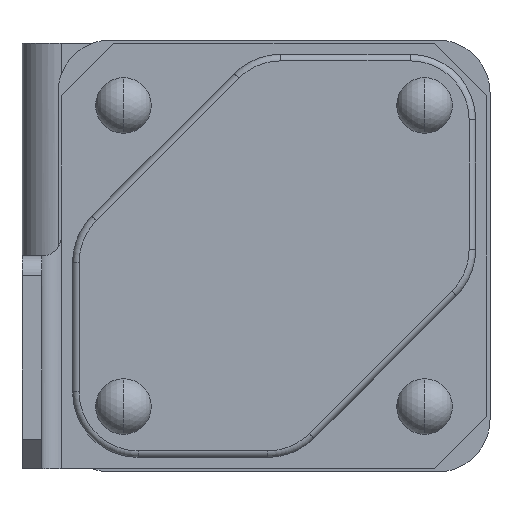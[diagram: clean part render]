
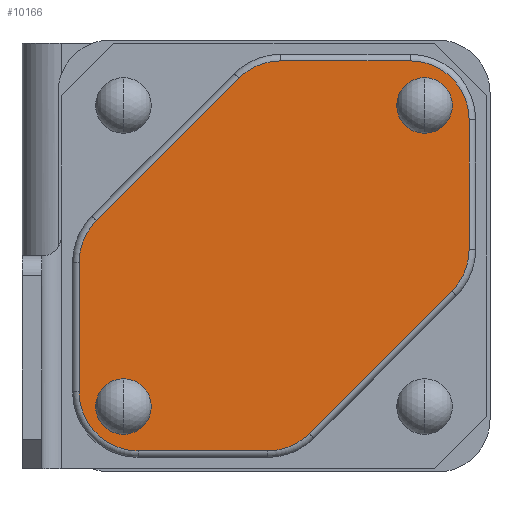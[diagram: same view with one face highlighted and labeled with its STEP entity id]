
A CAD part, front view. The second image highlights one B-rep face of the part: STEP entity #10166.
In plain terms, the highlighted planar face has unit normal (0, -1, 0).
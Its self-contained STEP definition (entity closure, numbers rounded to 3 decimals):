
#315 = CIRCLE ( 'NONE', #3400, 4.25 ) ;
#407 = DIRECTION ( 'NONE',  ( 1., 0., 0. ) ) ;
#448 = CARTESIAN_POINT ( 'NONE',  ( 23., -35.5, 27.25 ) ) ;
#480 = AXIS2_PLACEMENT_3D ( 'NONE', #14851, #12390, #4695 ) ;
#483 = DIRECTION ( 'NONE',  ( 0., 0., -1. ) ) ;
#533 = DIRECTION ( 'NONE',  ( -0.707, 0., -0.707 ) ) ;
#767 = CARTESIAN_POINT ( 'NONE',  ( 20.808, -35.5, 1.009 ) ) ;
#773 = CARTESIAN_POINT ( 'NONE',  ( 1.009, -35.5, 29.808 ) ) ;
#810 = DIRECTION ( 'NONE',  ( 0., -1., 0. ) ) ;
#823 = DIRECTION ( 'NONE',  ( 0.707, 0., -0.707 ) ) ;
#898 = DIRECTION ( 'NONE',  ( 0., 1., 0. ) ) ;
#904 = FACE_BOUND ( 'NONE', #13531, .T. ) ;
#957 = EDGE_CURVE ( 'NONE', #13229, #3943, #8693, .T. ) ;
#1001 = CIRCLE ( 'NONE', #3148, 9. ) ;
#1104 = CARTESIAN_POINT ( 'NONE',  ( -23., -35.5, -18.75 ) ) ;
#1177 = EDGE_CURVE ( 'NONE', #11392, #12930, #8475, .T. ) ;
#1303 = LINE ( 'NONE', #1787, #2280 ) ;
#1322 = CIRCLE ( 'NONE', #480, 9. ) ;
#1401 = AXIS2_PLACEMENT_3D ( 'NONE', #767, #16153, #823 ) ;
#1407 = ORIENTED_EDGE ( 'NONE', *, *, #957, .T. ) ;
#1455 = CARTESIAN_POINT ( 'NONE',  ( -0.971, -35.5, -29.77 ) ) ;
#1787 = CARTESIAN_POINT ( 'NONE',  ( -29.77, -35.5, -20.77 ) ) ;
#1911 = CIRCLE ( 'NONE', #4523, 9. ) ;
#2199 = EDGE_LOOP ( 'NONE', ( #15185, #13399 ) ) ;
#2280 = VECTOR ( 'NONE', #483, 1000. ) ;
#2576 = VERTEX_POINT ( 'NONE', #14228 ) ;
#2859 = CARTESIAN_POINT ( 'NONE',  ( -0.971, -35.5, -29.77 ) ) ;
#2919 = VECTOR ( 'NONE', #7416, 1000. ) ;
#2920 = EDGE_LOOP ( 'NONE', ( #15342, #1407, #7557, #9671, #8165, #4220, #16069, #4429, #7052, #10631, #8561, #8047 ) ) ;
#3148 = AXIS2_PLACEMENT_3D ( 'NONE', #10977, #3235, #8512 ) ;
#3235 = DIRECTION ( 'NONE',  ( 0., -1., 0. ) ) ;
#3253 = CARTESIAN_POINT ( 'NONE',  ( -23., -35.5, -23. ) ) ;
#3400 = AXIS2_PLACEMENT_3D ( 'NONE', #15783, #10399, #11801 ) ;
#3433 = DIRECTION ( 'NONE',  ( 0.707, 0., -0.707 ) ) ;
#3435 = CIRCLE ( 'NONE', #3643, 9. ) ;
#3643 = AXIS2_PLACEMENT_3D ( 'NONE', #4259, #15741, #4088 ) ;
#3651 = CARTESIAN_POINT ( 'NONE',  ( 20.808, -35.5, 20.808 ) ) ;
#3669 = DIRECTION ( 'NONE',  ( 0., -1., 0. ) ) ;
#3848 = EDGE_CURVE ( 'NONE', #15316, #16023, #315, .T. ) ;
#3943 = VERTEX_POINT ( 'NONE', #10554 ) ;
#3985 = CARTESIAN_POINT ( 'NONE',  ( -23., -35.5, -27.25 ) ) ;
#4066 = LINE ( 'NONE', #6447, #7916 ) ;
#4088 = DIRECTION ( 'NONE',  ( 0.707, 0., -0.707 ) ) ;
#4146 = CARTESIAN_POINT ( 'NONE',  ( 29.808, -35.5, 20.808 ) ) ;
#4220 = ORIENTED_EDGE ( 'NONE', *, *, #4449, .T. ) ;
#4259 = CARTESIAN_POINT ( 'NONE',  ( 1.009, -35.5, 20.808 ) ) ;
#4319 = VECTOR ( 'NONE', #407, 1000. ) ;
#4345 = VERTEX_POINT ( 'NONE', #6630 ) ;
#4429 = ORIENTED_EDGE ( 'NONE', *, *, #13783, .T. ) ;
#4449 = EDGE_CURVE ( 'NONE', #12930, #12187, #3435, .T. ) ;
#4523 = AXIS2_PLACEMENT_3D ( 'NONE', #15902, #810, #11039 ) ;
#4620 = EDGE_CURVE ( 'NONE', #2576, #9823, #1303, .T. ) ;
#4695 = DIRECTION ( 'NONE',  ( 0.707, 0., -0.707 ) ) ;
#4804 = CARTESIAN_POINT ( 'NONE',  ( 29.808, -35.5, 20.808 ) ) ;
#4860 = VECTOR ( 'NONE', #533, 1000. ) ;
#4880 = PLANE ( 'NONE',  #12404 ) ;
#4893 = AXIS2_PLACEMENT_3D ( 'NONE', #15592, #9117, #9057 ) ;
#5010 = CARTESIAN_POINT ( 'NONE',  ( 20.808, -35.5, 29.808 ) ) ;
#5640 = VERTEX_POINT ( 'NONE', #1455 ) ;
#5695 = FACE_OUTER_BOUND ( 'NONE', #2920, .T. ) ;
#6368 = CARTESIAN_POINT ( 'NONE',  ( -29.77, -35.5, -20.77 ) ) ;
#6447 = CARTESIAN_POINT ( 'NONE',  ( 27.172, -35.5, -5.355 ) ) ;
#6499 = DIRECTION ( 'NONE',  ( 0.707, 0., 0.707 ) ) ;
#6557 = DIRECTION ( 'NONE',  ( -1., 0., 0. ) ) ;
#6630 = CARTESIAN_POINT ( 'NONE',  ( -27.134, -35.5, 5.393 ) ) ;
#7025 = EDGE_CURVE ( 'NONE', #13086, #13229, #4066, .T. ) ;
#7052 = ORIENTED_EDGE ( 'NONE', *, *, #4620, .T. ) ;
#7223 = CARTESIAN_POINT ( 'NONE',  ( 23., -35.5, 23. ) ) ;
#7227 = EDGE_CURVE ( 'NONE', #5640, #13086, #1911, .T. ) ;
#7284 = EDGE_CURVE ( 'NONE', #12187, #4345, #13308, .T. ) ;
#7332 = AXIS2_PLACEMENT_3D ( 'NONE', #3253, #13731, #7346 ) ;
#7346 = DIRECTION ( 'NONE',  ( 0., 0., -1. ) ) ;
#7416 = DIRECTION ( 'NONE',  ( 0., 0., 1. ) ) ;
#7439 = EDGE_CURVE ( 'NONE', #16221, #12646, #12174, .T. ) ;
#7458 = EDGE_CURVE ( 'NONE', #16426, #11392, #1322, .T. ) ;
#7557 = ORIENTED_EDGE ( 'NONE', *, *, #12920, .T. ) ;
#7916 = VECTOR ( 'NONE', #6499, 1000. ) ;
#8047 = ORIENTED_EDGE ( 'NONE', *, *, #7227, .T. ) ;
#8165 = ORIENTED_EDGE ( 'NONE', *, *, #1177, .T. ) ;
#8475 = LINE ( 'NONE', #15542, #15873 ) ;
#8512 = DIRECTION ( 'NONE',  ( 0.707, 0., -0.707 ) ) ;
#8561 = ORIENTED_EDGE ( 'NONE', *, *, #9373, .T. ) ;
#8693 = CIRCLE ( 'NONE', #1401, 9. ) ;
#8780 = CARTESIAN_POINT ( 'NONE',  ( -20.77, -35.5, -29.77 ) ) ;
#8865 = CARTESIAN_POINT ( 'NONE',  ( 5.393, -35.5, -27.134 ) ) ;
#9019 = EDGE_CURVE ( 'NONE', #9823, #12547, #1001, .T. ) ;
#9057 = DIRECTION ( 'NONE',  ( 0., 0., -1. ) ) ;
#9117 = DIRECTION ( 'NONE',  ( 0., 1., 0. ) ) ;
#9373 = EDGE_CURVE ( 'NONE', #12547, #5640, #16175, .T. ) ;
#9643 = CARTESIAN_POINT ( 'NONE',  ( -5.355, -35.5, 27.172 ) ) ;
#9644 = ORIENTED_EDGE ( 'NONE', *, *, #3848, .T. ) ;
#9671 = ORIENTED_EDGE ( 'NONE', *, *, #7458, .T. ) ;
#9823 = VERTEX_POINT ( 'NONE', #6368 ) ;
#9859 = DIRECTION ( 'NONE',  ( 0., 0., -1. ) ) ;
#10108 = CIRCLE ( 'NONE', #14073, 9. ) ;
#10166 = ADVANCED_FACE ( 'NONE', ( #904, #14701, #5695 ), #4880, .T. ) ;
#10197 = CARTESIAN_POINT ( 'NONE',  ( -20.77, -35.5, -0.971 ) ) ;
#10399 = DIRECTION ( 'NONE',  ( 0., 1., 0. ) ) ;
#10554 = CARTESIAN_POINT ( 'NONE',  ( 29.808, -35.5, 1.009 ) ) ;
#10631 = ORIENTED_EDGE ( 'NONE', *, *, #9019, .T. ) ;
#10977 = CARTESIAN_POINT ( 'NONE',  ( -20.77, -35.5, -20.77 ) ) ;
#11039 = DIRECTION ( 'NONE',  ( 0.707, 0., -0.707 ) ) ;
#11392 = VERTEX_POINT ( 'NONE', #5010 ) ;
#11530 = EDGE_CURVE ( 'NONE', #12646, #16221, #13421, .T. ) ;
#11801 = DIRECTION ( 'NONE',  ( 0., 0., -1. ) ) ;
#12174 = CIRCLE ( 'NONE', #7332, 4.25 ) ;
#12187 = VERTEX_POINT ( 'NONE', #9643 ) ;
#12342 = CIRCLE ( 'NONE', #15570, 4.25 ) ;
#12389 = EDGE_CURVE ( 'NONE', #16023, #15316, #12342, .T. ) ;
#12390 = DIRECTION ( 'NONE',  ( 0., -1., 0. ) ) ;
#12404 = AXIS2_PLACEMENT_3D ( 'NONE', #3651, #13645, #3433 ) ;
#12547 = VERTEX_POINT ( 'NONE', #8780 ) ;
#12646 = VERTEX_POINT ( 'NONE', #3985 ) ;
#12920 = EDGE_CURVE ( 'NONE', #3943, #16426, #14332, .T. ) ;
#12930 = VERTEX_POINT ( 'NONE', #773 ) ;
#13086 = VERTEX_POINT ( 'NONE', #8865 ) ;
#13229 = VERTEX_POINT ( 'NONE', #14390 ) ;
#13233 = CARTESIAN_POINT ( 'NONE',  ( -27.134, -35.5, 5.393 ) ) ;
#13308 = LINE ( 'NONE', #13233, #4860 ) ;
#13399 = ORIENTED_EDGE ( 'NONE', *, *, #7439, .T. ) ;
#13421 = CIRCLE ( 'NONE', #4893, 4.25 ) ;
#13531 = EDGE_LOOP ( 'NONE', ( #15962, #9644 ) ) ;
#13645 = DIRECTION ( 'NONE',  ( 0., -1., 0. ) ) ;
#13731 = DIRECTION ( 'NONE',  ( 0., 1., 0. ) ) ;
#13783 = EDGE_CURVE ( 'NONE', #4345, #2576, #10108, .T. ) ;
#14073 = AXIS2_PLACEMENT_3D ( 'NONE', #10197, #3669, #14093 ) ;
#14093 = DIRECTION ( 'NONE',  ( 0.707, 0., -0.707 ) ) ;
#14228 = CARTESIAN_POINT ( 'NONE',  ( -29.77, -35.5, -0.971 ) ) ;
#14332 = LINE ( 'NONE', #4804, #2919 ) ;
#14390 = CARTESIAN_POINT ( 'NONE',  ( 27.172, -35.5, -5.355 ) ) ;
#14701 = FACE_BOUND ( 'NONE', #2199, .T. ) ;
#14851 = CARTESIAN_POINT ( 'NONE',  ( 20.808, -35.5, 20.808 ) ) ;
#15185 = ORIENTED_EDGE ( 'NONE', *, *, #11530, .T. ) ;
#15316 = VERTEX_POINT ( 'NONE', #448 ) ;
#15342 = ORIENTED_EDGE ( 'NONE', *, *, #7025, .T. ) ;
#15542 = CARTESIAN_POINT ( 'NONE',  ( 1.009, -35.5, 29.808 ) ) ;
#15570 = AXIS2_PLACEMENT_3D ( 'NONE', #7223, #898, #9859 ) ;
#15592 = CARTESIAN_POINT ( 'NONE',  ( -23., -35.5, -23. ) ) ;
#15741 = DIRECTION ( 'NONE',  ( 0., -1., 0. ) ) ;
#15783 = CARTESIAN_POINT ( 'NONE',  ( 23., -35.5, 23. ) ) ;
#15873 = VECTOR ( 'NONE', #6557, 1000. ) ;
#15902 = CARTESIAN_POINT ( 'NONE',  ( -0.971, -35.5, -20.77 ) ) ;
#15962 = ORIENTED_EDGE ( 'NONE', *, *, #12389, .T. ) ;
#16023 = VERTEX_POINT ( 'NONE', #16168 ) ;
#16069 = ORIENTED_EDGE ( 'NONE', *, *, #7284, .T. ) ;
#16153 = DIRECTION ( 'NONE',  ( 0., -1., 0. ) ) ;
#16168 = CARTESIAN_POINT ( 'NONE',  ( 23., -35.5, 18.75 ) ) ;
#16175 = LINE ( 'NONE', #2859, #4319 ) ;
#16221 = VERTEX_POINT ( 'NONE', #1104 ) ;
#16426 = VERTEX_POINT ( 'NONE', #4146 ) ;
